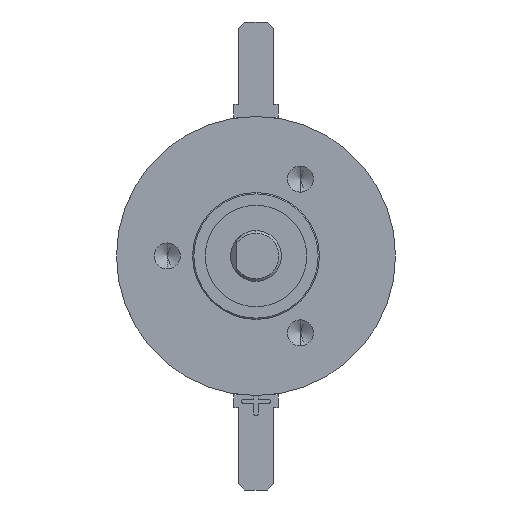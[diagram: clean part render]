
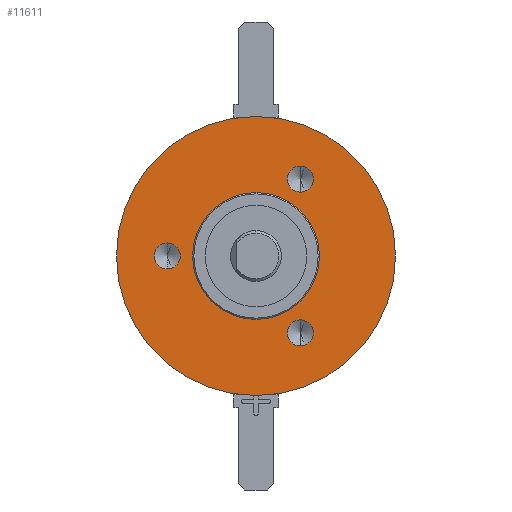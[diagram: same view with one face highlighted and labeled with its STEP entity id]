
A CAD part, left-side view. The second image highlights one B-rep face of the part: STEP entity #11611.
In plain terms, the highlighted planar face has unit normal (-1, 0, 0).
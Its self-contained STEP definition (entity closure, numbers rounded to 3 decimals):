
#29 = DIRECTION ( 'NONE',  ( 0., 0., 1. ) ) ;
#226 = FACE_OUTER_BOUND ( 'NONE', #14142, .T. ) ;
#276 = DIRECTION ( 'NONE',  ( -1., 0., 0. ) ) ;
#500 = VERTEX_POINT ( 'NONE', #6742 ) ;
#803 = AXIS2_PLACEMENT_3D ( 'NONE', #14772, #7435, #29 ) ;
#1004 = VERTEX_POINT ( 'NONE', #10420 ) ;
#1127 = DIRECTION ( 'NONE',  ( -1., 0., 0. ) ) ;
#1343 = EDGE_CURVE ( 'NONE', #5773, #10811, #12022, .T. ) ;
#1496 = VERTEX_POINT ( 'NONE', #6976 ) ;
#1529 = CIRCLE ( 'NONE', #6654, 5. ) ;
#1655 = DIRECTION ( 'NONE',  ( -1., 0., 0. ) ) ;
#1791 = CARTESIAN_POINT ( 'NONE',  ( 14.85, -3.5, -5.037 ) ) ;
#2029 = DIRECTION ( 'NONE',  ( 0., 0., 1. ) ) ;
#2318 = AXIS2_PLACEMENT_3D ( 'NONE', #9062, #1655, #10288 ) ;
#2409 = VERTEX_POINT ( 'NONE', #10277 ) ;
#3127 = AXIS2_PLACEMENT_3D ( 'NONE', #8568, #1127, #9775 ) ;
#3318 = AXIS2_PLACEMENT_3D ( 'NONE', #9019, #4803, #3569 ) ;
#3522 = FACE_BOUND ( 'NONE', #7296, .T. ) ;
#3569 = DIRECTION ( 'NONE',  ( 0., 0., 1. ) ) ;
#3587 = ORIENTED_EDGE ( 'NONE', *, *, #7475, .F. ) ;
#4031 = ORIENTED_EDGE ( 'NONE', *, *, #12078, .F. ) ;
#4214 = EDGE_LOOP ( 'NONE', ( #4031, #15493 ) ) ;
#4726 = CIRCLE ( 'NONE', #803, 1.025 ) ;
#4803 = DIRECTION ( 'NONE',  ( -1., 0., 0. ) ) ;
#4830 = ORIENTED_EDGE ( 'NONE', *, *, #15283, .F. ) ;
#5148 = ORIENTED_EDGE ( 'NONE', *, *, #11857, .T. ) ;
#5185 = DIRECTION ( 'NONE',  ( -1., 0., 0. ) ) ;
#5226 = AXIS2_PLACEMENT_3D ( 'NONE', #13316, #15855, #9422 ) ;
#5663 = CARTESIAN_POINT ( 'NONE',  ( 14.85, 7., -1.025 ) ) ;
#5765 = PLANE ( 'NONE',  #7633 ) ;
#5773 = VERTEX_POINT ( 'NONE', #1791 ) ;
#5952 = DIRECTION ( 'NONE',  ( -1., 0., 0. ) ) ;
#6055 = CIRCLE ( 'NONE', #8173, 5. ) ;
#6067 = CIRCLE ( 'NONE', #2318, 1.025 ) ;
#6335 = VERTEX_POINT ( 'NONE', #12101 ) ;
#6471 = CARTESIAN_POINT ( 'NONE',  ( 14.85, -3.5, -6.062 ) ) ;
#6517 = DIRECTION ( 'NONE',  ( -1., 0., 0. ) ) ;
#6598 = VERTEX_POINT ( 'NONE', #5663 ) ;
#6654 = AXIS2_PLACEMENT_3D ( 'NONE', #13278, #5952, #14523 ) ;
#6742 = CARTESIAN_POINT ( 'NONE',  ( 14.85, 0., -11. ) ) ;
#6812 = FACE_BOUND ( 'NONE', #7292, .T. ) ;
#6976 = CARTESIAN_POINT ( 'NONE',  ( 14.85, -3.5, 7.087 ) ) ;
#6991 = CARTESIAN_POINT ( 'NONE',  ( 14.85, 5., 0. ) ) ;
#7043 = AXIS2_PLACEMENT_3D ( 'NONE', #7668, #276, #8921 ) ;
#7292 = EDGE_LOOP ( 'NONE', ( #11717, #13168 ) ) ;
#7296 = EDGE_LOOP ( 'NONE', ( #3587, #4830 ) ) ;
#7435 = DIRECTION ( 'NONE',  ( -1., 0., 0. ) ) ;
#7475 = EDGE_CURVE ( 'NONE', #1496, #2409, #12743, .T. ) ;
#7633 = AXIS2_PLACEMENT_3D ( 'NONE', #6991, #15564, #8241 ) ;
#7668 = CARTESIAN_POINT ( 'NONE',  ( 14.85, 0., 0. ) ) ;
#8173 = AXIS2_PLACEMENT_3D ( 'NONE', #13847, #6517, #15080 ) ;
#8211 = AXIS2_PLACEMENT_3D ( 'NONE', #12524, #5185, #13750 ) ;
#8241 = DIRECTION ( 'NONE',  ( 0., 0., -1. ) ) ;
#8568 = CARTESIAN_POINT ( 'NONE',  ( 14.85, 7., 0. ) ) ;
#8863 = EDGE_LOOP ( 'NONE', ( #15170, #10995 ) ) ;
#8921 = DIRECTION ( 'NONE',  ( 0., 0., 1. ) ) ;
#9019 = CARTESIAN_POINT ( 'NONE',  ( 14.85, -3.5, -6.062 ) ) ;
#9062 = CARTESIAN_POINT ( 'NONE',  ( 14.85, 7., 0. ) ) ;
#9422 = DIRECTION ( 'NONE',  ( 0., 0., 1. ) ) ;
#9545 = ORIENTED_EDGE ( 'NONE', *, *, #11299, .T. ) ;
#9549 = DIRECTION ( 'NONE',  ( -1., 0., 0. ) ) ;
#9775 = DIRECTION ( 'NONE',  ( 0., 0., 1. ) ) ;
#9916 = CIRCLE ( 'NONE', #11301, 1.025 ) ;
#10034 = EDGE_CURVE ( 'NONE', #10811, #5773, #9916, .T. ) ;
#10073 = FACE_BOUND ( 'NONE', #4214, .T. ) ;
#10131 = CARTESIAN_POINT ( 'NONE',  ( 14.85, -3.5, -7.087 ) ) ;
#10277 = CARTESIAN_POINT ( 'NONE',  ( 14.85, -3.5, 5.037 ) ) ;
#10288 = DIRECTION ( 'NONE',  ( 0., 0., 1. ) ) ;
#10420 = CARTESIAN_POINT ( 'NONE',  ( 14.85, 0., 11. ) ) ;
#10472 = CIRCLE ( 'NONE', #8211, 11. ) ;
#10811 = VERTEX_POINT ( 'NONE', #10131 ) ;
#10817 = CARTESIAN_POINT ( 'NONE',  ( 14.85, 0., -5. ) ) ;
#10995 = ORIENTED_EDGE ( 'NONE', *, *, #14224, .F. ) ;
#11299 = EDGE_CURVE ( 'NONE', #500, #1004, #10472, .T. ) ;
#11301 = AXIS2_PLACEMENT_3D ( 'NONE', #6471, #9549, #2029 ) ;
#11383 = EDGE_CURVE ( 'NONE', #14150, #15665, #6055, .T. ) ;
#11611 = ADVANCED_FACE ( 'NONE', ( #226, #10073, #6812, #3522, #12946 ), #5765, .F. ) ;
#11717 = ORIENTED_EDGE ( 'NONE', *, *, #1343, .F. ) ;
#11857 = EDGE_CURVE ( 'NONE', #1004, #500, #13112, .T. ) ;
#12022 = CIRCLE ( 'NONE', #3318, 1.025 ) ;
#12078 = EDGE_CURVE ( 'NONE', #15665, #14150, #1529, .T. ) ;
#12101 = CARTESIAN_POINT ( 'NONE',  ( 14.85, 7., 1.025 ) ) ;
#12524 = CARTESIAN_POINT ( 'NONE',  ( 14.85, 0., 0. ) ) ;
#12743 = CIRCLE ( 'NONE', #5226, 1.025 ) ;
#12946 = FACE_BOUND ( 'NONE', #8863, .T. ) ;
#13112 = CIRCLE ( 'NONE', #7043, 11. ) ;
#13168 = ORIENTED_EDGE ( 'NONE', *, *, #10034, .F. ) ;
#13278 = CARTESIAN_POINT ( 'NONE',  ( 14.85, 0., 0. ) ) ;
#13316 = CARTESIAN_POINT ( 'NONE',  ( 14.85, -3.5, 6.062 ) ) ;
#13610 = CARTESIAN_POINT ( 'NONE',  ( 14.85, 0., 5. ) ) ;
#13750 = DIRECTION ( 'NONE',  ( 0., 0., 1. ) ) ;
#13847 = CARTESIAN_POINT ( 'NONE',  ( 14.85, 0., 0. ) ) ;
#14142 = EDGE_LOOP ( 'NONE', ( #5148, #9545 ) ) ;
#14150 = VERTEX_POINT ( 'NONE', #10817 ) ;
#14224 = EDGE_CURVE ( 'NONE', #6598, #6335, #15585, .T. ) ;
#14523 = DIRECTION ( 'NONE',  ( 0., 0., 1. ) ) ;
#14772 = CARTESIAN_POINT ( 'NONE',  ( 14.85, -3.5, 6.062 ) ) ;
#15080 = DIRECTION ( 'NONE',  ( 0., 0., 1. ) ) ;
#15170 = ORIENTED_EDGE ( 'NONE', *, *, #15860, .F. ) ;
#15283 = EDGE_CURVE ( 'NONE', #2409, #1496, #4726, .T. ) ;
#15493 = ORIENTED_EDGE ( 'NONE', *, *, #11383, .F. ) ;
#15564 = DIRECTION ( 'NONE',  ( 1., 0., 0. ) ) ;
#15585 = CIRCLE ( 'NONE', #3127, 1.025 ) ;
#15665 = VERTEX_POINT ( 'NONE', #13610 ) ;
#15855 = DIRECTION ( 'NONE',  ( -1., 0., 0. ) ) ;
#15860 = EDGE_CURVE ( 'NONE', #6335, #6598, #6067, .T. ) ;
